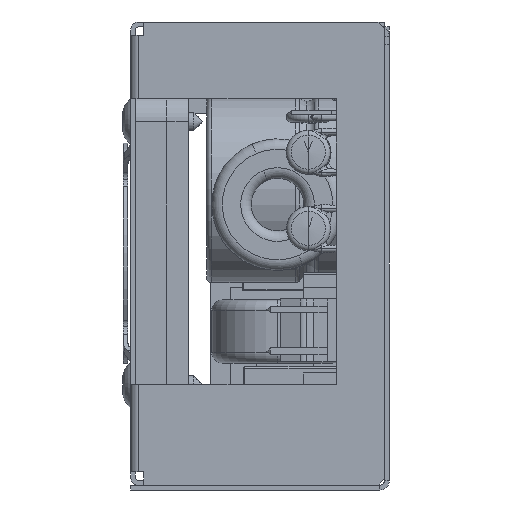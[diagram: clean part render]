
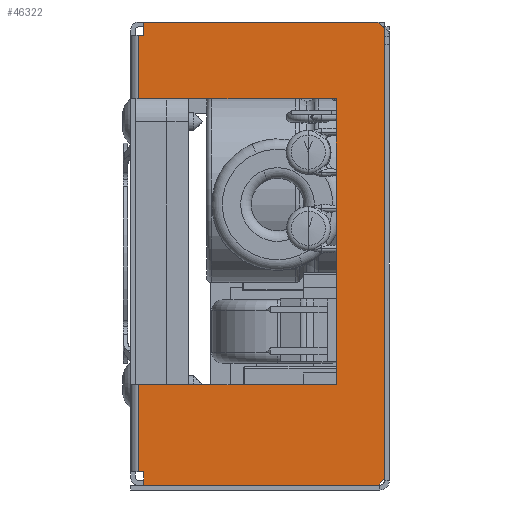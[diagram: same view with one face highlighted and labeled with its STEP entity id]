
A CAD part, left-side view. The second image highlights one B-rep face of the part: STEP entity #46322.
In plain terms, the highlighted planar face has unit normal (-1, 0, 0).
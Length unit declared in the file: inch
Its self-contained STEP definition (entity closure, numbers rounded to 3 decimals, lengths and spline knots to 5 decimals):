
#37584 = LINE ( 'NONE', #37629, #37628 ) ;
#37587 = CARTESIAN_POINT ( 'NONE',  ( 0., -0.06, -0.575 ) ) ;
#37616 = CARTESIAN_POINT ( 'NONE',  ( 0., -0.06, -0.1 ) ) ;
#37627 = DIRECTION ( 'NONE',  ( 0., 0., -1. ) ) ;
#37628 = VECTOR ( 'NONE', #37627, 39.37008 ) ;
#37629 = CARTESIAN_POINT ( 'NONE',  ( 0., -0.06, -3.464 ) ) ;
#37651 = CARTESIAN_POINT ( 'NONE',  ( 0., -1.85, -3.464 ) ) ;
#37768 = CARTESIAN_POINT ( 'NONE',  ( 0., -0.1, -3.464 ) ) ;
#37771 = LINE ( 'NONE', #37819, #37818 ) ;
#37788 = CARTESIAN_POINT ( 'NONE',  ( 0., -1.85, 0. ) ) ;
#37802 = LINE ( 'NONE', #37838, #37837 ) ;
#37806 = AXIS2_PLACEMENT_3D ( 'NONE', #37834, #37833, #37832 ) ;
#37817 = DIRECTION ( 'NONE',  ( 0., 1., 0. ) ) ;
#37818 = VECTOR ( 'NONE', #37817, 39.37008 ) ;
#37819 = CARTESIAN_POINT ( 'NONE',  ( 0., -0.036, -3.464 ) ) ;
#37821 = CARTESIAN_POINT ( 'NONE',  ( 0., -0.1, -0.1 ) ) ;
#37825 = CARTESIAN_POINT ( 'NONE',  ( 0., -0.1, 0. ) ) ;
#37826 = DIRECTION ( 'NONE',  ( 0., 0., -1. ) ) ;
#37827 = VECTOR ( 'NONE', #37826, 39.37008 ) ;
#37828 = CARTESIAN_POINT ( 'NONE',  ( 0., -1.9, -3.464 ) ) ;
#37829 = LINE ( 'NONE', #37828, #37827 ) ;
#37832 = DIRECTION ( 'NONE',  ( 0., 0., 1. ) ) ;
#37833 = DIRECTION ( 'NONE',  ( -1., 0., 0. ) ) ;
#37834 = CARTESIAN_POINT ( 'NONE',  ( 0., -0.036, -3.464 ) ) ;
#37836 = DIRECTION ( 'NONE',  ( 0., 1., 0. ) ) ;
#37837 = VECTOR ( 'NONE', #37836, 39.37008 ) ;
#37838 = CARTESIAN_POINT ( 'NONE',  ( 0., -1.54, -0.575 ) ) ;
#37841 = PLANE ( 'NONE',  #37806 ) ;
#37842 = DIRECTION ( 'NONE',  ( 0., 1., 0. ) ) ;
#37843 = VECTOR ( 'NONE', #37842, 39.37008 ) ;
#37844 = CARTESIAN_POINT ( 'NONE',  ( 0., -1.54, -0.575 ) ) ;
#37846 = CARTESIAN_POINT ( 'NONE',  ( 0., -0.1, -0.1 ) ) ;
#37847 = LINE ( 'NONE', #37846, #37843 ) ;
#37857 = FACE_OUTER_BOUND ( 'NONE', #46376, .T. ) ;
#37865 = CARTESIAN_POINT ( 'NONE',  ( 0., -1.9, -0.05 ) ) ;
#37867 = DIRECTION ( 'NONE',  ( 0., 1., 0. ) ) ;
#37868 = VECTOR ( 'NONE', #37867, 39.37008 ) ;
#37869 = CARTESIAN_POINT ( 'NONE',  ( 0., -0.036, 0. ) ) ;
#37873 = LINE ( 'NONE', #37869, #37868 ) ;
#37881 = CARTESIAN_POINT ( 'NONE',  ( 0., -1.9, -3.414 ) ) ;
#37883 = DIRECTION ( 'NONE',  ( 0., 0.707, 0.707 ) ) ;
#37884 = VECTOR ( 'NONE', #37883, 39.37008 ) ;
#37885 = CARTESIAN_POINT ( 'NONE',  ( 0., -2.675, -0.825 ) ) ;
#37886 = LINE ( 'NONE', #37885, #37884 ) ;
#37895 = VECTOR ( 'NONE', #37909, 39.37008 ) ;
#37904 = LINE ( 'NONE', #37914, #37895 ) ;
#37909 = DIRECTION ( 'NONE',  ( 0., -0.707, 0.707 ) ) ;
#37914 = CARTESIAN_POINT ( 'NONE',  ( 0., -0.943, -4.371 ) ) ;
#37938 = CARTESIAN_POINT ( 'NONE',  ( 0., -0.06, -2.712 ) ) ;
#37950 = CARTESIAN_POINT ( 'NONE',  ( 0., -0.1, -3.364 ) ) ;
#37951 = LINE ( 'NONE', #38025, #38024 ) ;
#37952 = DIRECTION ( 'NONE',  ( 0., 1., 0. ) ) ;
#37953 = VECTOR ( 'NONE', #37952, 39.37008 ) ;
#37954 = CARTESIAN_POINT ( 'NONE',  ( 0., -0.1, -3.364 ) ) ;
#37956 = LINE ( 'NONE', #37954, #37953 ) ;
#37958 = CARTESIAN_POINT ( 'NONE',  ( 0., -0.06, -3.364 ) ) ;
#37959 = DIRECTION ( 'NONE',  ( 0., 0., -1. ) ) ;
#37960 = VECTOR ( 'NONE', #37959, 39.37008 ) ;
#37963 = DIRECTION ( 'NONE',  ( 0., 0., 1. ) ) ;
#37964 = VECTOR ( 'NONE', #37963, 39.37008 ) ;
#37965 = CARTESIAN_POINT ( 'NONE',  ( 0., -1.54, -0.575 ) ) ;
#37966 = LINE ( 'NONE', #37965, #37964 ) ;
#37967 = DIRECTION ( 'NONE',  ( 0., -1., 0. ) ) ;
#37968 = VECTOR ( 'NONE', #37967, 39.37008 ) ;
#37975 = CARTESIAN_POINT ( 'NONE',  ( 0., -1.54, -2.712 ) ) ;
#37976 = CARTESIAN_POINT ( 'NONE',  ( 0., -0.06, -3.464 ) ) ;
#37977 = LINE ( 'NONE', #37976, #37960 ) ;
#37978 = CARTESIAN_POINT ( 'NONE',  ( 0., 0., -2.712 ) ) ;
#37979 = LINE ( 'NONE', #37978, #37968 ) ;
#38017 = DIRECTION ( 'NONE',  ( 0., 0., 1. ) ) ;
#38018 = VECTOR ( 'NONE', #38017, 39.37008 ) ;
#38021 = CARTESIAN_POINT ( 'NONE',  ( 0., -0.1, -0.1 ) ) ;
#38022 = LINE ( 'NONE', #38021, #38018 ) ;
#38023 = DIRECTION ( 'NONE',  ( 0., 0., 1. ) ) ;
#38024 = VECTOR ( 'NONE', #38023, 39.37008 ) ;
#38025 = CARTESIAN_POINT ( 'NONE',  ( 0., -0.1, -3.464 ) ) ;
#46104 = VERTEX_POINT ( 'NONE', #37587 ) ;
#46119 = EDGE_CURVE ( 'NONE', #46124, #46104, #37584, .T. ) ;
#46124 = VERTEX_POINT ( 'NONE', #37616 ) ;
#46164 = VERTEX_POINT ( 'NONE', #37651 ) ;
#46248 = VERTEX_POINT ( 'NONE', #37788 ) ;
#46268 = VERTEX_POINT ( 'NONE', #37768 ) ;
#46272 = EDGE_CURVE ( 'NONE', #46164, #46268, #37771, .T. ) ;
#46311 = EDGE_CURVE ( 'NONE', #46323, #46124, #37847, .T. ) ;
#46312 = VERTEX_POINT ( 'NONE', #37844 ) ;
#46314 = ORIENTED_EDGE ( 'NONE', *, *, #46311, .T. ) ;
#46316 = EDGE_CURVE ( 'NONE', #46312, #46104, #37802, .T. ) ;
#46318 = ORIENTED_EDGE ( 'NONE', *, *, #46316, .F. ) ;
#46322 = ADVANCED_FACE ( 'NONE', ( #37857 ), #37841, .T. ) ;
#46323 = VERTEX_POINT ( 'NONE', #37821 ) ;
#46325 = ORIENTED_EDGE ( 'NONE', *, *, #46272, .F. ) ;
#46328 = ORIENTED_EDGE ( 'NONE', *, *, #46334, .T. ) ;
#46330 = ORIENTED_EDGE ( 'NONE', *, *, #46331, .F. ) ;
#46331 = EDGE_CURVE ( 'NONE', #46354, #46356, #37829, .T. ) ;
#46332 = ORIENTED_EDGE ( 'NONE', *, *, #46459, .F. ) ;
#46334 = EDGE_CURVE ( 'NONE', #46354, #46248, #37886, .T. ) ;
#46335 = VERTEX_POINT ( 'NONE', #37825 ) ;
#46336 = ORIENTED_EDGE ( 'NONE', *, *, #46119, .T. ) ;
#46347 = ORIENTED_EDGE ( 'NONE', *, *, #46380, .T. ) ;
#46350 = EDGE_CURVE ( 'NONE', #46248, #46335, #37873, .T. ) ;
#46354 = VERTEX_POINT ( 'NONE', #37865 ) ;
#46356 = VERTEX_POINT ( 'NONE', #37881 ) ;
#46376 = EDGE_LOOP ( 'NONE', ( #46325, #46347, #46330, #46328, #46458, #46332, #46314, #46336, #46318, #46425, #46438, #46445, #46436, #46450 ) ) ;
#46380 = EDGE_CURVE ( 'NONE', #46164, #46356, #37904, .T. ) ;
#46425 = ORIENTED_EDGE ( 'NONE', *, *, #46428, .F. ) ;
#46427 = EDGE_CURVE ( 'NONE', #46430, #46435, #37979, .T. ) ;
#46428 = EDGE_CURVE ( 'NONE', #46435, #46312, #37966, .T. ) ;
#46430 = VERTEX_POINT ( 'NONE', #37938 ) ;
#46435 = VERTEX_POINT ( 'NONE', #37975 ) ;
#46436 = ORIENTED_EDGE ( 'NONE', *, *, #46448, .F. ) ;
#46438 = ORIENTED_EDGE ( 'NONE', *, *, #46427, .F. ) ;
#46441 = EDGE_CURVE ( 'NONE', #46430, #46444, #37977, .T. ) ;
#46444 = VERTEX_POINT ( 'NONE', #37958 ) ;
#46445 = ORIENTED_EDGE ( 'NONE', *, *, #46441, .T. ) ;
#46448 = EDGE_CURVE ( 'NONE', #46456, #46444, #37956, .T. ) ;
#46450 = ORIENTED_EDGE ( 'NONE', *, *, #46451, .F. ) ;
#46451 = EDGE_CURVE ( 'NONE', #46268, #46456, #37951, .T. ) ;
#46456 = VERTEX_POINT ( 'NONE', #37950 ) ;
#46458 = ORIENTED_EDGE ( 'NONE', *, *, #46350, .T. ) ;
#46459 = EDGE_CURVE ( 'NONE', #46323, #46335, #38022, .T. ) ;
